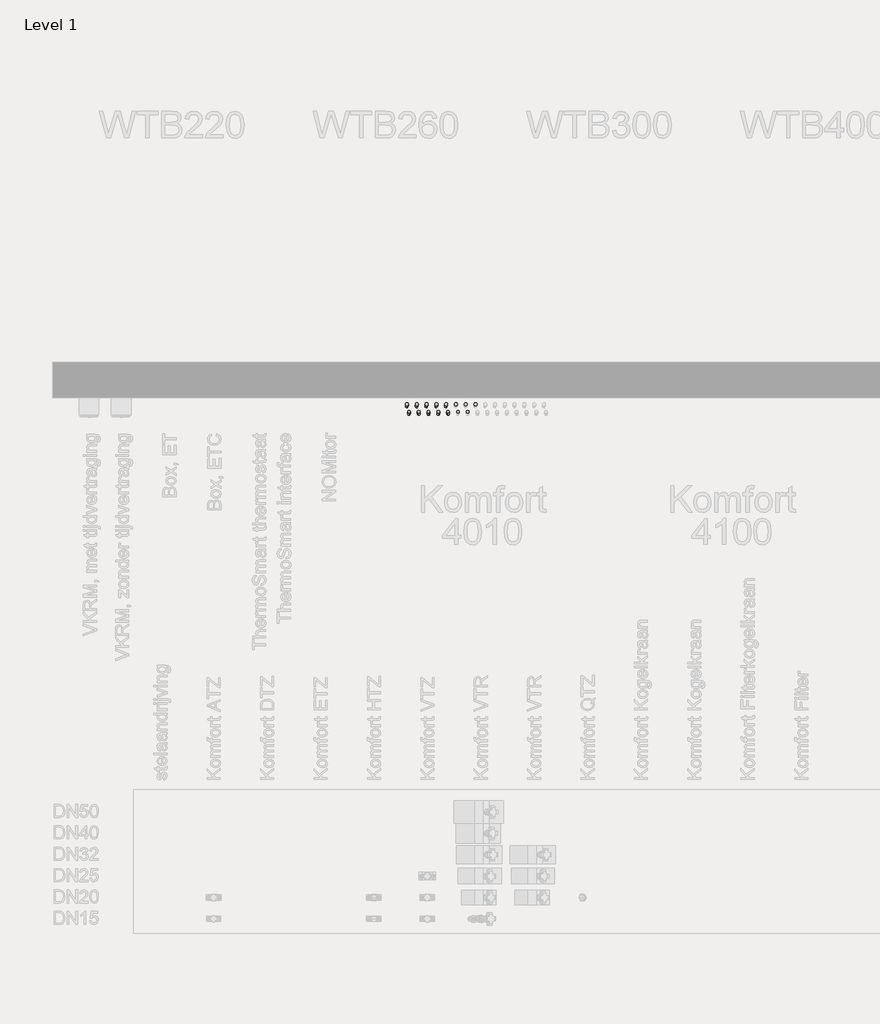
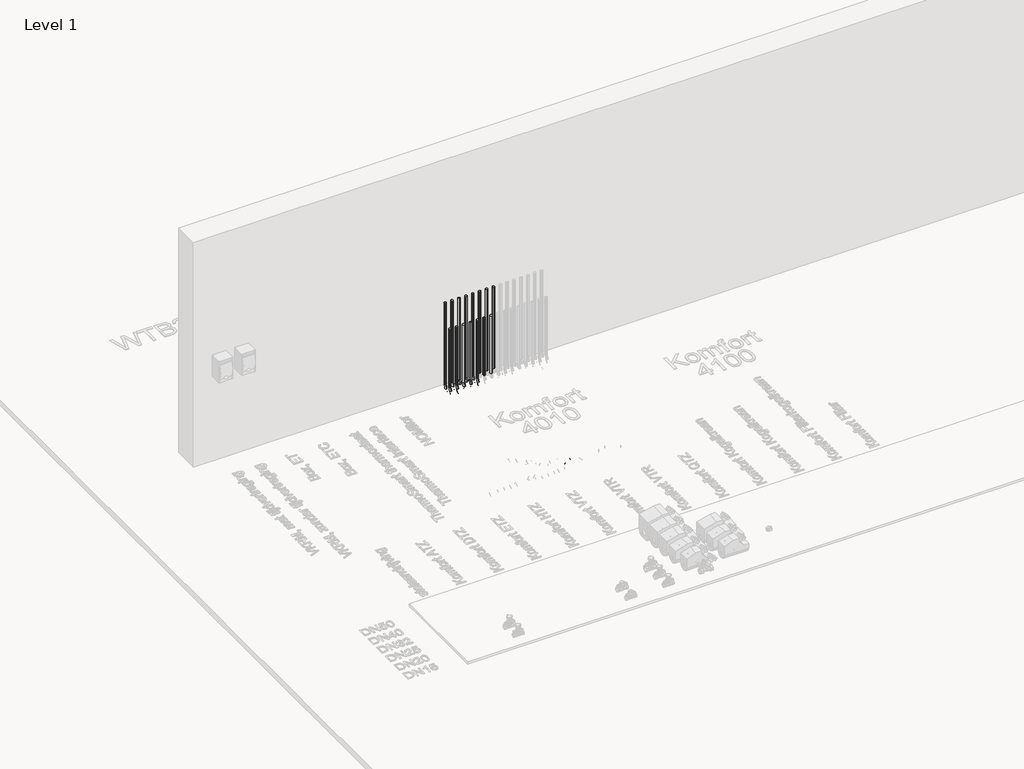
# One storey, part 4 of 34: 38 pipe segments, 20 pipe fittings.
"""IFC4 building model written with IfcOpenShell, lengths in millimetres."""

from ifc_helpers import new_model, si_unit, point, frame, frame_2d, origin, place, context, project, spatial, circle_curve, trimmed, segment, composite_curve, outline, extrude, transform, mapped, element, save
from components import comfort_pipe_plus_5c14e1aa, comfort_pipe_plus_d9ac523e, comfort_pipe_plus_c0b00d21, comfort_pipe_plus_f781b332, comfort_pipe_plus_8c37c2e0

model = new_model("IFC4")

# Units and contexts
model_context = context("Model", 3, world=origin())
ifc_project = project(units=[si_unit("LENGTHUNIT", "METRE", prefix="MILLI")], contexts=[model_context])

# Site, building, storey
site = spatial("IfcSite", under=ifc_project)
building = spatial("IfcBuilding", under=site)
storey = spatial("IfcBuildingStorey", under=building, Name="Level 1", Elevation=0.0)

# Pipe fittings
placement = place(None, origin())
comfort_pipe_plus_shape = comfort_pipe_plus_5c14e1aa(model_context)
element("IfcPipeFitting", 1, ObjectType="400_5-_Uponor_curved_Elbow : Comfort pipe PLUS", at=placement, inside=storey, context=model_context, shape_type="MappedRepresentation", body=[
    mapped(comfort_pipe_plus_shape, transform((-15004.4849522, 7437.4403177, -40.0), x_axis=(-0.14136609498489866, -0.9899573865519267, 0.0), y_axis=(0.9899573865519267, -0.14136609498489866, 0.0), z_axis=(0.0, 0.0, 1.0))),
])
element("IfcPipeFitting", 2, ObjectType="400_5-_Uponor_curved_Elbow : Comfort pipe PLUS", at=placement, inside=storey, context=model_context, shape_type="MappedRepresentation", body=[
    mapped(comfort_pipe_plus_shape, transform((-15059.4849522, 7437.4403177, -40.0), x_axis=(-0.1413660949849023, -0.9899573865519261, 0.0), y_axis=(0.9899573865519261, -0.1413660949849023, 0.0), z_axis=(0.0, 0.0, 1.0))),
])
element("IfcPipeFitting", 3, ObjectType="400_5-_Uponor_curved_Elbow : Comfort pipe PLUS", at=placement, inside=storey, context=model_context, shape_type="MappedRepresentation", body=[
    mapped(comfort_pipe_plus_shape, transform((-15114.4849522, 7437.4403177, -40.0), x_axis=(-0.14136609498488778, -0.9899573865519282, 0.0), y_axis=(0.9899573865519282, -0.14136609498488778, 0.0), z_axis=(0.0, 0.0, 1.0))),
])
element("IfcPipeFitting", 4, ObjectType="400_5-_Uponor_curved_Elbow : Comfort pipe PLUS", at=placement, inside=storey, context=model_context, shape_type="MappedRepresentation", body=[
    mapped(comfort_pipe_plus_shape, transform((-15169.4849522, 7437.4403177, -40.0), x_axis=(-0.14136609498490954, -0.989957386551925, 0.0), y_axis=(0.989957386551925, -0.14136609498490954, 0.0), z_axis=(0.0, 0.0, 1.0))),
])
element("IfcPipeFitting", 5, ObjectType="400_5-_Uponor_curved_Elbow : Comfort pipe PLUS", at=placement, inside=storey, context=model_context, shape_type="MappedRepresentation", body=[
    mapped(comfort_pipe_plus_shape, transform((-15224.4849522, 7437.4403177, -40.0), x_axis=(-0.14136609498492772, -0.9899573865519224, 0.0), y_axis=(0.9899573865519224, -0.14136609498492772, 0.0), z_axis=(0.0, 0.0, 1.0))),
])
element("IfcPipeFitting", 6, ObjectType="400_5-_Uponor_curved_Elbow : Comfort pipe PLUS", at=placement, inside=storey, context=model_context, shape_type="MappedRepresentation", body=[
    mapped(comfort_pipe_plus_shape, transform((-15279.4849522, 7437.4403177, -40.0), x_axis=(-0.14136609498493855, -0.989957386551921, 0.0), y_axis=(0.989957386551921, -0.14136609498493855, 0.0), z_axis=(0.0, 0.0, 1.0))),
])
comfort_pipe_plus_2_shape = comfort_pipe_plus_d9ac523e(model_context)
element("IfcPipeFitting", 7, ObjectType="400_5-_Uponor_curved_Elbow : Comfort pipe PLUS", at=placement, inside=storey, context=model_context, shape_type="MappedRepresentation", body=[
    mapped(comfort_pipe_plus_2_shape, transform((-15251.9849522, 7509.9863889, -40.0), x_axis=(0.0, 0.0, -1.0), y_axis=(0.0, -1.0, 0.0), z_axis=(-1.0, 0.0, 0.0))),
])
element("IfcPipeFitting", 8, ObjectType="400_5-_Uponor_curved_Elbow : Comfort pipe PLUS", at=placement, inside=storey, context=model_context, shape_type="MappedRepresentation", body=[
    mapped(comfort_pipe_plus_2_shape, transform((-15196.9849522, 7509.9863889, -40.0), x_axis=(0.0, 0.0, -1.0), y_axis=(0.0, -1.0, 0.0), z_axis=(-1.0, 0.0, 0.0))),
])
element("IfcPipeFitting", 9, ObjectType="400_5-_Uponor_curved_Elbow : Comfort pipe PLUS", at=placement, inside=storey, context=model_context, shape_type="MappedRepresentation", body=[
    mapped(comfort_pipe_plus_2_shape, transform((-15141.9849522, 7509.9863889, -40.0), x_axis=(0.0, 0.0, -1.0), y_axis=(0.0, -1.0, 0.0), z_axis=(-1.0, 0.0, 0.0))),
])
element("IfcPipeFitting", 10, ObjectType="400_5-_Uponor_curved_Elbow : Comfort pipe PLUS", at=placement, inside=storey, context=model_context, shape_type="MappedRepresentation", body=[
    mapped(comfort_pipe_plus_2_shape, transform((-15086.9849522, 7509.9863889, -40.0), x_axis=(0.0, 0.0, -1.0), y_axis=(0.0, -1.0, 0.0), z_axis=(-1.0, 0.0, 0.0))),
])
element("IfcPipeFitting", 11, ObjectType="400_5-_Uponor_curved_Elbow : Comfort pipe PLUS", at=placement, inside=storey, context=model_context, shape_type="MappedRepresentation", body=[
    mapped(comfort_pipe_plus_2_shape, transform((-15031.9849522, 7509.9863889, -40.0), x_axis=(0.0, 0.0, -1.0), y_axis=(0.0, -1.0, 0.0), z_axis=(-1.0, 0.0, 0.0))),
])
element("IfcPipeFitting", 12, ObjectType="400_5-_Uponor_curved_Elbow : Comfort pipe PLUS", at=placement, inside=storey, context=model_context, shape_type="MappedRepresentation", body=[
    mapped(comfort_pipe_plus_2_shape, transform((-15042.9849522, 7552.9863889, -40.0), x_axis=(0.0, 0.0, -1.0), y_axis=(-0.14136609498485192, -0.9899573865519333, 0.0), z_axis=(-0.9899573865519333, 0.14136609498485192, 0.0))),
])
element("IfcPipeFitting", 13, ObjectType="400_5-_Uponor_curved_Elbow : Comfort pipe PLUS", at=placement, inside=storey, context=model_context, shape_type="MappedRepresentation", body=[
    mapped(comfort_pipe_plus_2_shape, transform((-15097.9849522, 7552.9863889, -40.0), x_axis=(0.0, 0.0, -1.0), y_axis=(-0.14136609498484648, -0.9899573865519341, 0.0), z_axis=(-0.9899573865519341, 0.14136609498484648, 0.0))),
])
element("IfcPipeFitting", 14, ObjectType="400_5-_Uponor_curved_Elbow : Comfort pipe PLUS", at=placement, inside=storey, context=model_context, shape_type="MappedRepresentation", body=[
    mapped(comfort_pipe_plus_2_shape, transform((-15152.9849522, 7552.9863889, -40.0), x_axis=(0.0, 0.0, -1.0), y_axis=(-0.1413660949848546, -0.9899573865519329, 0.0), z_axis=(-0.9899573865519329, 0.1413660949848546, 0.0))),
])
element("IfcPipeFitting", 15, ObjectType="400_5-_Uponor_curved_Elbow : Comfort pipe PLUS", at=placement, inside=storey, context=model_context, shape_type="MappedRepresentation", body=[
    mapped(comfort_pipe_plus_2_shape, transform((-15207.9849522, 7552.9863889, -40.0), x_axis=(0.0, 0.0, -1.0), y_axis=(-0.1413660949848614, -0.989957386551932, 0.0), z_axis=(-0.989957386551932, 0.1413660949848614, 0.0))),
])
element("IfcPipeFitting", 16, ObjectType="400_5-_Uponor_curved_Elbow : Comfort pipe PLUS", at=placement, inside=storey, context=model_context, shape_type="MappedRepresentation", body=[
    mapped(comfort_pipe_plus_2_shape, transform((-15262.9849522, 7552.9863889, -40.0), x_axis=(0.0, 0.0, -1.0), y_axis=(-0.1413660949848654, -0.9899573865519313, 0.0), z_axis=(-0.9899573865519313, 0.1413660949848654, 0.0))),
])
comfort_pipe_plus_3_shape = comfort_pipe_plus_c0b00d21(model_context)
element("IfcPipeFitting", 17, ObjectType="400_5-_Uponor_curved_Elbow : Comfort pipe PLUS", at=placement, inside=storey, context=model_context, shape_type="MappedRepresentation", body=[
    mapped(comfort_pipe_plus_3_shape, transform((-14955.7349522, 6355.7502784, -40.0), x_axis=(0.0, 1.0, 0.0), y_axis=(-1.0, 0.0, 0.0), z_axis=(0.0, 0.0, 1.0))),
])
element("IfcPipeFitting", 18, ObjectType="400_5-_Uponor_curved_Elbow : Comfort pipe PLUS", at=placement, inside=storey, context=model_context, shape_type="MappedRepresentation", body=[
    mapped(comfort_pipe_plus_3_shape, transform((-14921.9849522, 6407.4633273, -40.0), x_axis=(0.0, -1.0, 0.0), y_axis=(1.0, 0.0, 0.0), z_axis=(0.0, 0.0, 1.0))),
])
comfort_pipe_plus_4_shape = comfort_pipe_plus_f781b332(model_context)
element("IfcPipeFitting", 19, ObjectType="400_5-_Uponor_curved_Elbow : Comfort pipe PLUS", at=placement, inside=storey, context=model_context, shape_type="MappedRepresentation", body=[
    mapped(comfort_pipe_plus_4_shape, transform((-14949.4849522, 6410.5234526, -40.0), x_axis=(0.0, -1.0, 0.0), y_axis=(1.0, 0.0, 0.0), z_axis=(0.0, 0.0, 1.0))),
])
comfort_pipe_plus_5_shape = comfort_pipe_plus_8c37c2e0(model_context)
element("IfcPipeFitting", 20, ObjectType="400_5-_Uponor_curved_Elbow : Comfort pipe PLUS", at=placement, inside=storey, context=model_context, shape_type="MappedRepresentation", body=[
    mapped(comfort_pipe_plus_5_shape, transform((-14976.9849522, 6415.1496116, -40.0), x_axis=(0.0, -1.0, 0.0), y_axis=(1.0, 0.0, 0.0), z_axis=(0.0, 0.0, 1.0))),
])

# Pipe segments
element("IfcPipeSegment", 21, ObjectType="Uponor Comfort Pipe PLUS / VVL", at=placement, inside=storey, context=model_context, shape_type="SweptSolid", body=[
    extrude(outline(composite_curve([segment(trimmed(circle_curve(frame_2d((0.0, -8.5)), 8.5), [point((-8.5, -8.5))], [point((0.0, 0.0))], False, "CARTESIAN"), True, "CONTINUOUS"), segment(trimmed(circle_curve(frame_2d((0.0, -8.5)), 8.5), [point((0.0, 0.0))], [point((8.5, -8.5))], False, "CARTESIAN"), True, "CONTINUOUS"), segment(trimmed(circle_curve(frame_2d((0.0, -8.5)), 8.5), [point((8.5, -8.5))], [point((0.0, -17.0))], False, "CARTESIAN"), True, "CONTINUOUS"), segment(trimmed(circle_curve(frame_2d((0.0, -8.5)), 8.5), [point((0.0, -17.0))], [point((-8.5, -8.5))], False, "CARTESIAN"), True, "CONTINUOUS")], self_intersect=False)), frame((-15278.7819693, 7442.3631611, -48.5), z_axis=(0.14136609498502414, 0.9899573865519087, 0.0), x_axis=(0.9899573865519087, -0.14136609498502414, 0.0)), (0.0, 0.0, 1.0), 41.7454441),
])
element("IfcPipeSegment", 22, ObjectType="Uponor Comfort Pipe PLUS / VVL", at=placement, inside=storey, context=model_context, shape_type="SweptSolid", body=[
    extrude(outline(composite_curve([segment(trimmed(circle_curve(frame_2d((-15262.9849522, 7552.9863889)), 8.5), [point((-15271.4849522, 7552.9863889))], [point((-15262.9849522, 7561.4863889))], False, "CARTESIAN"), True, "CONTINUOUS"), segment(trimmed(circle_curve(frame_2d((-15262.9849522, 7552.9863889)), 8.5), [point((-15262.9849522, 7561.4863889))], [point((-15254.4849522, 7552.9863889))], False, "CARTESIAN"), True, "CONTINUOUS"), segment(trimmed(circle_curve(frame_2d((-15262.9849522, 7552.9863889)), 8.5), [point((-15254.4849522, 7552.9863889))], [point((-15262.9849522, 7544.4863889))], False, "CARTESIAN"), True, "CONTINUOUS"), segment(trimmed(circle_curve(frame_2d((-15262.9849522, 7552.9863889)), 8.5), [point((-15262.9849522, 7544.4863889))], [point((-15271.4849522, 7552.9863889))], False, "CARTESIAN"), True, "CONTINUOUS")], self_intersect=False)), frame((0.0, 0.0, 30.0), z_axis=(0.0, 0.0, 1.0), x_axis=(1.0, 0.0, 0.0)), (0.0, 0.0, 1.0), 687.5776398),
])
element("IfcPipeSegment", 23, ObjectType="Uponor Comfort Pipe PLUS / VVL", at=placement, inside=storey, context=model_context, shape_type="SweptSolid", body=[
    extrude(outline(composite_curve([segment(trimmed(circle_curve(frame_2d((-40.0, -15251.9849522)), 8.5), [point((-40.0, -15260.4849522))], [point((-48.5, -15251.9849522))], False, "CARTESIAN"), True, "CONTINUOUS"), segment(trimmed(circle_curve(frame_2d((-40.0, -15251.9849522)), 8.5), [point((-48.5, -15251.9849522))], [point((-40.0, -15243.4849522))], False, "CARTESIAN"), True, "CONTINUOUS"), segment(trimmed(circle_curve(frame_2d((-40.0, -15251.9849522)), 8.5), [point((-40.0, -15243.4849522))], [point((-31.5, -15251.9849522))], False, "CARTESIAN"), True, "CONTINUOUS"), segment(trimmed(circle_curve(frame_2d((-40.0, -15251.9849522)), 8.5), [point((-31.5, -15251.9849522))], [point((-40.0, -15260.4849522))], False, "CARTESIAN"), True, "CONTINUOUS")], self_intersect=False)), frame((0.0, 7193.8942465, 0.0), z_axis=(0.0, 1.0, 0.0), x_axis=(0.0, 0.0, 1.0)), (0.0, 0.0, 1.0), 246.0921424),
])
element("IfcPipeSegment", 24, ObjectType="Uponor Comfort Pipe PLUS / VVL", at=placement, inside=storey, context=model_context, shape_type="SweptSolid", body=[
    extrude(outline(composite_curve([segment(trimmed(circle_curve(frame_2d((-15251.9849522, 7509.9863889)), 8.5), [point((-15260.4849522, 7509.9863889))], [point((-15251.9849522, 7518.4863889))], False, "CARTESIAN"), True, "CONTINUOUS"), segment(trimmed(circle_curve(frame_2d((-15251.9849522, 7509.9863889)), 8.5), [point((-15251.9849522, 7518.4863889))], [point((-15243.4849522, 7509.9863889))], False, "CARTESIAN"), True, "CONTINUOUS"), segment(trimmed(circle_curve(frame_2d((-15251.9849522, 7509.9863889)), 8.5), [point((-15243.4849522, 7509.9863889))], [point((-15251.9849522, 7501.4863889))], False, "CARTESIAN"), True, "CONTINUOUS"), segment(trimmed(circle_curve(frame_2d((-15251.9849522, 7509.9863889)), 8.5), [point((-15251.9849522, 7501.4863889))], [point((-15260.4849522, 7509.9863889))], False, "CARTESIAN"), True, "CONTINUOUS")], self_intersect=False)), frame((0.0, 0.0, 30.0), z_axis=(0.0, 0.0, 1.0), x_axis=(1.0, 0.0, 0.0)), (0.0, 0.0, 1.0), 487.6490683),
])
element("IfcPipeSegment", 25, ObjectType="Uponor Comfort Pipe PLUS / VVL", at=placement, inside=storey, context=model_context, shape_type="SweptSolid", body=[
    extrude(outline(composite_curve([segment(trimmed(circle_curve(frame_2d((0.0, -8.5)), 8.5), [point((-8.5, -8.5))], [point((0.0, 0.0))], False, "CARTESIAN"), True, "CONTINUOUS"), segment(trimmed(circle_curve(frame_2d((0.0, -8.5)), 8.5), [point((0.0, 0.0))], [point((8.5, -8.5))], False, "CARTESIAN"), True, "CONTINUOUS"), segment(trimmed(circle_curve(frame_2d((0.0, -8.5)), 8.5), [point((8.5, -8.5))], [point((0.0, -17.0))], False, "CARTESIAN"), True, "CONTINUOUS"), segment(trimmed(circle_curve(frame_2d((0.0, -8.5)), 8.5), [point((0.0, -17.0))], [point((-8.5, -8.5))], False, "CARTESIAN"), True, "CONTINUOUS")], self_intersect=False)), frame((-15223.7819693, 7442.3631611, -48.5), z_axis=(0.1413660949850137, 0.9899573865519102, 0.0), x_axis=(0.9899573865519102, -0.1413660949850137, 0.0)), (0.0, 0.0, 1.0), 41.7454441),
])
element("IfcPipeSegment", 26, ObjectType="Uponor Comfort Pipe PLUS / VVL", at=placement, inside=storey, context=model_context, shape_type="SweptSolid", body=[
    extrude(outline(composite_curve([segment(trimmed(circle_curve(frame_2d((-15207.9849522, 7552.9863889)), 8.5), [point((-15216.4849522, 7552.9863889))], [point((-15207.9849522, 7561.4863889))], False, "CARTESIAN"), True, "CONTINUOUS"), segment(trimmed(circle_curve(frame_2d((-15207.9849522, 7552.9863889)), 8.5), [point((-15207.9849522, 7561.4863889))], [point((-15199.4849522, 7552.9863889))], False, "CARTESIAN"), True, "CONTINUOUS"), segment(trimmed(circle_curve(frame_2d((-15207.9849522, 7552.9863889)), 8.5), [point((-15199.4849522, 7552.9863889))], [point((-15207.9849522, 7544.4863889))], False, "CARTESIAN"), True, "CONTINUOUS"), segment(trimmed(circle_curve(frame_2d((-15207.9849522, 7552.9863889)), 8.5), [point((-15207.9849522, 7544.4863889))], [point((-15216.4849522, 7552.9863889))], False, "CARTESIAN"), True, "CONTINUOUS")], self_intersect=False)), frame((0.0, 0.0, 30.0), z_axis=(0.0, 0.0, 1.0), x_axis=(1.0, 0.0, 0.0)), (0.0, 0.0, 1.0), 687.5776398),
])
element("IfcPipeSegment", 27, ObjectType="Uponor Comfort Pipe PLUS / VVL", at=placement, inside=storey, context=model_context, shape_type="SweptSolid", body=[
    extrude(outline(composite_curve([segment(trimmed(circle_curve(frame_2d((-40.0, -15196.9849522)), 8.5), [point((-40.0, -15205.4849522))], [point((-48.5, -15196.9849522))], False, "CARTESIAN"), True, "CONTINUOUS"), segment(trimmed(circle_curve(frame_2d((-40.0, -15196.9849522)), 8.5), [point((-48.5, -15196.9849522))], [point((-40.0, -15188.4849522))], False, "CARTESIAN"), True, "CONTINUOUS"), segment(trimmed(circle_curve(frame_2d((-40.0, -15196.9849522)), 8.5), [point((-40.0, -15188.4849522))], [point((-31.5, -15196.9849522))], False, "CARTESIAN"), True, "CONTINUOUS"), segment(trimmed(circle_curve(frame_2d((-40.0, -15196.9849522)), 8.5), [point((-31.5, -15196.9849522))], [point((-40.0, -15205.4849522))], False, "CARTESIAN"), True, "CONTINUOUS")], self_intersect=False)), frame((0.0, 7193.8942465, 0.0), z_axis=(0.0, 1.0, 0.0), x_axis=(0.0, 0.0, 1.0)), (0.0, 0.0, 1.0), 246.0921424),
])
element("IfcPipeSegment", 28, ObjectType="Uponor Comfort Pipe PLUS / VVL", at=placement, inside=storey, context=model_context, shape_type="SweptSolid", body=[
    extrude(outline(composite_curve([segment(trimmed(circle_curve(frame_2d((-15196.9849522, 7509.9863889)), 8.5), [point((-15205.4849522, 7509.9863889))], [point((-15196.9849522, 7518.4863889))], False, "CARTESIAN"), True, "CONTINUOUS"), segment(trimmed(circle_curve(frame_2d((-15196.9849522, 7509.9863889)), 8.5), [point((-15196.9849522, 7518.4863889))], [point((-15188.4849522, 7509.9863889))], False, "CARTESIAN"), True, "CONTINUOUS"), segment(trimmed(circle_curve(frame_2d((-15196.9849522, 7509.9863889)), 8.5), [point((-15188.4849522, 7509.9863889))], [point((-15196.9849522, 7501.4863889))], False, "CARTESIAN"), True, "CONTINUOUS"), segment(trimmed(circle_curve(frame_2d((-15196.9849522, 7509.9863889)), 8.5), [point((-15196.9849522, 7501.4863889))], [point((-15205.4849522, 7509.9863889))], False, "CARTESIAN"), True, "CONTINUOUS")], self_intersect=False)), frame((0.0, 0.0, 30.0), z_axis=(0.0, 0.0, 1.0), x_axis=(1.0, 0.0, 0.0)), (0.0, 0.0, 1.0), 487.6490683),
])
element("IfcPipeSegment", 29, ObjectType="Uponor Comfort Pipe PLUS / VVL", at=placement, inside=storey, context=model_context, shape_type="SweptSolid", body=[
    extrude(outline(composite_curve([segment(trimmed(circle_curve(frame_2d((0.0, -8.5)), 8.5), [point((-8.5, -8.5))], [point((0.0, 0.0))], False, "CARTESIAN"), True, "CONTINUOUS"), segment(trimmed(circle_curve(frame_2d((0.0, -8.5)), 8.5), [point((0.0, 0.0))], [point((8.5, -8.5))], False, "CARTESIAN"), True, "CONTINUOUS"), segment(trimmed(circle_curve(frame_2d((0.0, -8.5)), 8.5), [point((8.5, -8.5))], [point((0.0, -17.0))], False, "CARTESIAN"), True, "CONTINUOUS"), segment(trimmed(circle_curve(frame_2d((0.0, -8.5)), 8.5), [point((0.0, -17.0))], [point((-8.5, -8.5))], False, "CARTESIAN"), True, "CONTINUOUS")], self_intersect=False)), frame((-15168.7819693, 7442.3631611, -48.5), z_axis=(0.1413660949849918, 0.9899573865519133, 0.0), x_axis=(0.9899573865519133, -0.1413660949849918, 0.0)), (0.0, 0.0, 1.0), 41.7454441),
])
element("IfcPipeSegment", 30, ObjectType="Uponor Comfort Pipe PLUS / VVL", at=placement, inside=storey, context=model_context, shape_type="SweptSolid", body=[
    extrude(outline(composite_curve([segment(trimmed(circle_curve(frame_2d((-15152.9849522, 7552.9863889)), 8.5), [point((-15161.4849522, 7552.9863889))], [point((-15152.9849522, 7561.4863889))], False, "CARTESIAN"), True, "CONTINUOUS"), segment(trimmed(circle_curve(frame_2d((-15152.9849522, 7552.9863889)), 8.5), [point((-15152.9849522, 7561.4863889))], [point((-15144.4849522, 7552.9863889))], False, "CARTESIAN"), True, "CONTINUOUS"), segment(trimmed(circle_curve(frame_2d((-15152.9849522, 7552.9863889)), 8.5), [point((-15144.4849522, 7552.9863889))], [point((-15152.9849522, 7544.4863889))], False, "CARTESIAN"), True, "CONTINUOUS"), segment(trimmed(circle_curve(frame_2d((-15152.9849522, 7552.9863889)), 8.5), [point((-15152.9849522, 7544.4863889))], [point((-15161.4849522, 7552.9863889))], False, "CARTESIAN"), True, "CONTINUOUS")], self_intersect=False)), frame((0.0, 0.0, 30.0), z_axis=(0.0, 0.0, 1.0), x_axis=(1.0, 0.0, 0.0)), (0.0, 0.0, 1.0), 687.5776398),
])
element("IfcPipeSegment", 31, ObjectType="Uponor Comfort Pipe PLUS / VVL", at=placement, inside=storey, context=model_context, shape_type="SweptSolid", body=[
    extrude(outline(composite_curve([segment(trimmed(circle_curve(frame_2d((-40.0, -15141.9849522)), 8.5), [point((-40.0, -15150.4849522))], [point((-48.5, -15141.9849522))], False, "CARTESIAN"), True, "CONTINUOUS"), segment(trimmed(circle_curve(frame_2d((-40.0, -15141.9849522)), 8.5), [point((-48.5, -15141.9849522))], [point((-40.0, -15133.4849522))], False, "CARTESIAN"), True, "CONTINUOUS"), segment(trimmed(circle_curve(frame_2d((-40.0, -15141.9849522)), 8.5), [point((-40.0, -15133.4849522))], [point((-31.5, -15141.9849522))], False, "CARTESIAN"), True, "CONTINUOUS"), segment(trimmed(circle_curve(frame_2d((-40.0, -15141.9849522)), 8.5), [point((-31.5, -15141.9849522))], [point((-40.0, -15150.4849522))], False, "CARTESIAN"), True, "CONTINUOUS")], self_intersect=False)), frame((0.0, 7193.8942465, 0.0), z_axis=(0.0, 1.0, 0.0), x_axis=(0.0, 0.0, 1.0)), (0.0, 0.0, 1.0), 246.0921424),
])
element("IfcPipeSegment", 32, ObjectType="Uponor Comfort Pipe PLUS / VVL", at=placement, inside=storey, context=model_context, shape_type="SweptSolid", body=[
    extrude(outline(composite_curve([segment(trimmed(circle_curve(frame_2d((-15141.9849522, 7509.9863889)), 8.5), [point((-15150.4849522, 7509.9863889))], [point((-15141.9849522, 7518.4863889))], False, "CARTESIAN"), True, "CONTINUOUS"), segment(trimmed(circle_curve(frame_2d((-15141.9849522, 7509.9863889)), 8.5), [point((-15141.9849522, 7518.4863889))], [point((-15133.4849522, 7509.9863889))], False, "CARTESIAN"), True, "CONTINUOUS"), segment(trimmed(circle_curve(frame_2d((-15141.9849522, 7509.9863889)), 8.5), [point((-15133.4849522, 7509.9863889))], [point((-15141.9849522, 7501.4863889))], False, "CARTESIAN"), True, "CONTINUOUS"), segment(trimmed(circle_curve(frame_2d((-15141.9849522, 7509.9863889)), 8.5), [point((-15141.9849522, 7501.4863889))], [point((-15150.4849522, 7509.9863889))], False, "CARTESIAN"), True, "CONTINUOUS")], self_intersect=False)), frame((0.0, 0.0, 30.0), z_axis=(0.0, 0.0, 1.0), x_axis=(1.0, 0.0, 0.0)), (0.0, 0.0, 1.0), 487.6490683),
])
element("IfcPipeSegment", 33, ObjectType="Uponor Comfort Pipe PLUS / VVL", at=placement, inside=storey, context=model_context, shape_type="SweptSolid", body=[
    extrude(outline(composite_curve([segment(trimmed(circle_curve(frame_2d((0.0, -8.5)), 8.5), [point((-8.5, -8.5))], [point((0.0, 0.0))], False, "CARTESIAN"), True, "CONTINUOUS"), segment(trimmed(circle_curve(frame_2d((0.0, -8.5)), 8.5), [point((0.0, 0.0))], [point((8.5, -8.5))], False, "CARTESIAN"), True, "CONTINUOUS"), segment(trimmed(circle_curve(frame_2d((0.0, -8.5)), 8.5), [point((8.5, -8.5))], [point((0.0, -17.0))], False, "CARTESIAN"), True, "CONTINUOUS"), segment(trimmed(circle_curve(frame_2d((0.0, -8.5)), 8.5), [point((0.0, -17.0))], [point((-8.5, -8.5))], False, "CARTESIAN"), True, "CONTINUOUS")], self_intersect=False)), frame((-15113.7819693, 7442.3631611, -48.5), z_axis=(0.14136609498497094, 0.9899573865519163, 0.0), x_axis=(0.9899573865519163, -0.14136609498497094, 0.0)), (0.0, 0.0, 1.0), 41.7454441),
])
element("IfcPipeSegment", 34, ObjectType="Uponor Comfort Pipe PLUS / VVL", at=placement, inside=storey, context=model_context, shape_type="SweptSolid", body=[
    extrude(outline(composite_curve([segment(trimmed(circle_curve(frame_2d((-15097.9849522, 7552.9863889)), 8.5), [point((-15106.4849522, 7552.9863889))], [point((-15097.9849522, 7561.4863889))], False, "CARTESIAN"), True, "CONTINUOUS"), segment(trimmed(circle_curve(frame_2d((-15097.9849522, 7552.9863889)), 8.5), [point((-15097.9849522, 7561.4863889))], [point((-15089.4849522, 7552.9863889))], False, "CARTESIAN"), True, "CONTINUOUS"), segment(trimmed(circle_curve(frame_2d((-15097.9849522, 7552.9863889)), 8.5), [point((-15089.4849522, 7552.9863889))], [point((-15097.9849522, 7544.4863889))], False, "CARTESIAN"), True, "CONTINUOUS"), segment(trimmed(circle_curve(frame_2d((-15097.9849522, 7552.9863889)), 8.5), [point((-15097.9849522, 7544.4863889))], [point((-15106.4849522, 7552.9863889))], False, "CARTESIAN"), True, "CONTINUOUS")], self_intersect=False)), frame((0.0, 0.0, 30.0), z_axis=(0.0, 0.0, 1.0), x_axis=(1.0, 0.0, 0.0)), (0.0, 0.0, 1.0), 687.5776398),
])
element("IfcPipeSegment", 35, ObjectType="Uponor Comfort Pipe PLUS / VVL", at=placement, inside=storey, context=model_context, shape_type="SweptSolid", body=[
    extrude(outline(composite_curve([segment(trimmed(circle_curve(frame_2d((-40.0, -15086.9849522)), 8.5), [point((-40.0, -15095.4849522))], [point((-48.5, -15086.9849522))], False, "CARTESIAN"), True, "CONTINUOUS"), segment(trimmed(circle_curve(frame_2d((-40.0, -15086.9849522)), 8.5), [point((-48.5, -15086.9849522))], [point((-40.0, -15078.4849522))], False, "CARTESIAN"), True, "CONTINUOUS"), segment(trimmed(circle_curve(frame_2d((-40.0, -15086.9849522)), 8.5), [point((-40.0, -15078.4849522))], [point((-31.5, -15086.9849522))], False, "CARTESIAN"), True, "CONTINUOUS"), segment(trimmed(circle_curve(frame_2d((-40.0, -15086.9849522)), 8.5), [point((-31.5, -15086.9849522))], [point((-40.0, -15095.4849522))], False, "CARTESIAN"), True, "CONTINUOUS")], self_intersect=False)), frame((0.0, 7193.8942465, 0.0), z_axis=(0.0, 1.0, 0.0), x_axis=(0.0, 0.0, 1.0)), (0.0, 0.0, 1.0), 246.0921424),
])
element("IfcPipeSegment", 36, ObjectType="Uponor Comfort Pipe PLUS / VVL", at=placement, inside=storey, context=model_context, shape_type="SweptSolid", body=[
    extrude(outline(composite_curve([segment(trimmed(circle_curve(frame_2d((-15086.9849522, 7509.9863889)), 8.5), [point((-15095.4849522, 7509.9863889))], [point((-15086.9849522, 7518.4863889))], False, "CARTESIAN"), True, "CONTINUOUS"), segment(trimmed(circle_curve(frame_2d((-15086.9849522, 7509.9863889)), 8.5), [point((-15086.9849522, 7518.4863889))], [point((-15078.4849522, 7509.9863889))], False, "CARTESIAN"), True, "CONTINUOUS"), segment(trimmed(circle_curve(frame_2d((-15086.9849522, 7509.9863889)), 8.5), [point((-15078.4849522, 7509.9863889))], [point((-15086.9849522, 7501.4863889))], False, "CARTESIAN"), True, "CONTINUOUS"), segment(trimmed(circle_curve(frame_2d((-15086.9849522, 7509.9863889)), 8.5), [point((-15086.9849522, 7501.4863889))], [point((-15095.4849522, 7509.9863889))], False, "CARTESIAN"), True, "CONTINUOUS")], self_intersect=False)), frame((0.0, 0.0, 30.0), z_axis=(0.0, 0.0, 1.0), x_axis=(1.0, 0.0, 0.0)), (0.0, 0.0, 1.0), 487.6490683),
])
element("IfcPipeSegment", 37, ObjectType="Uponor Comfort Pipe PLUS / VVL", at=placement, inside=storey, context=model_context, shape_type="SweptSolid", body=[
    extrude(outline(composite_curve([segment(trimmed(circle_curve(frame_2d((0.0, -8.5)), 8.5), [point((-8.5, -8.5))], [point((0.0, 0.0))], False, "CARTESIAN"), True, "CONTINUOUS"), segment(trimmed(circle_curve(frame_2d((0.0, -8.5)), 8.5), [point((0.0, 0.0))], [point((8.5, -8.5))], False, "CARTESIAN"), True, "CONTINUOUS"), segment(trimmed(circle_curve(frame_2d((0.0, -8.5)), 8.5), [point((8.5, -8.5))], [point((0.0, -17.0))], False, "CARTESIAN"), True, "CONTINUOUS"), segment(trimmed(circle_curve(frame_2d((0.0, -8.5)), 8.5), [point((0.0, -17.0))], [point((-8.5, -8.5))], False, "CARTESIAN"), True, "CONTINUOUS")], self_intersect=False)), frame((-15058.7819693, 7442.3631611, -48.5), z_axis=(0.14136609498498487, 0.9899573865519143, 0.0), x_axis=(0.9899573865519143, -0.14136609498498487, 0.0)), (0.0, 0.0, 1.0), 41.7454441),
])
element("IfcPipeSegment", 38, ObjectType="Uponor Comfort Pipe PLUS / VVL", at=placement, inside=storey, context=model_context, shape_type="SweptSolid", body=[
    extrude(outline(composite_curve([segment(trimmed(circle_curve(frame_2d((-15042.9849522, 7552.9863889)), 8.5), [point((-15051.4849522, 7552.9863889))], [point((-15042.9849522, 7561.4863889))], False, "CARTESIAN"), True, "CONTINUOUS"), segment(trimmed(circle_curve(frame_2d((-15042.9849522, 7552.9863889)), 8.5), [point((-15042.9849522, 7561.4863889))], [point((-15034.4849522, 7552.9863889))], False, "CARTESIAN"), True, "CONTINUOUS"), segment(trimmed(circle_curve(frame_2d((-15042.9849522, 7552.9863889)), 8.5), [point((-15034.4849522, 7552.9863889))], [point((-15042.9849522, 7544.4863889))], False, "CARTESIAN"), True, "CONTINUOUS"), segment(trimmed(circle_curve(frame_2d((-15042.9849522, 7552.9863889)), 8.5), [point((-15042.9849522, 7544.4863889))], [point((-15051.4849522, 7552.9863889))], False, "CARTESIAN"), True, "CONTINUOUS")], self_intersect=False)), frame((0.0, 0.0, 30.0), z_axis=(0.0, 0.0, 1.0), x_axis=(1.0, 0.0, 0.0)), (0.0, 0.0, 1.0), 687.5776398),
])
element("IfcPipeSegment", 39, ObjectType="Uponor Comfort Pipe PLUS / VVL", at=placement, inside=storey, context=model_context, shape_type="SweptSolid", body=[
    extrude(outline(composite_curve([segment(trimmed(circle_curve(frame_2d((-40.0, -15031.9849522)), 8.5), [point((-40.0, -15040.4849522))], [point((-48.5, -15031.9849522))], False, "CARTESIAN"), True, "CONTINUOUS"), segment(trimmed(circle_curve(frame_2d((-40.0, -15031.9849522)), 8.5), [point((-48.5, -15031.9849522))], [point((-40.0, -15023.4849522))], False, "CARTESIAN"), True, "CONTINUOUS"), segment(trimmed(circle_curve(frame_2d((-40.0, -15031.9849522)), 8.5), [point((-40.0, -15023.4849522))], [point((-31.5, -15031.9849522))], False, "CARTESIAN"), True, "CONTINUOUS"), segment(trimmed(circle_curve(frame_2d((-40.0, -15031.9849522)), 8.5), [point((-31.5, -15031.9849522))], [point((-40.0, -15040.4849522))], False, "CARTESIAN"), True, "CONTINUOUS")], self_intersect=False)), frame((0.0, 7193.8942465, 0.0), z_axis=(0.0, 1.0, 0.0), x_axis=(0.0, 0.0, 1.0)), (0.0, 0.0, 1.0), 246.0921424),
])
element("IfcPipeSegment", 40, ObjectType="Uponor Comfort Pipe PLUS / VVL", at=placement, inside=storey, context=model_context, shape_type="SweptSolid", body=[
    extrude(outline(composite_curve([segment(trimmed(circle_curve(frame_2d((-15031.9849522, 7509.9863889)), 8.5), [point((-15040.4849522, 7509.9863889))], [point((-15031.9849522, 7518.4863889))], False, "CARTESIAN"), True, "CONTINUOUS"), segment(trimmed(circle_curve(frame_2d((-15031.9849522, 7509.9863889)), 8.5), [point((-15031.9849522, 7518.4863889))], [point((-15023.4849522, 7509.9863889))], False, "CARTESIAN"), True, "CONTINUOUS"), segment(trimmed(circle_curve(frame_2d((-15031.9849522, 7509.9863889)), 8.5), [point((-15023.4849522, 7509.9863889))], [point((-15031.9849522, 7501.4863889))], False, "CARTESIAN"), True, "CONTINUOUS"), segment(trimmed(circle_curve(frame_2d((-15031.9849522, 7509.9863889)), 8.5), [point((-15031.9849522, 7501.4863889))], [point((-15040.4849522, 7509.9863889))], False, "CARTESIAN"), True, "CONTINUOUS")], self_intersect=False)), frame((0.0, 0.0, 30.0), z_axis=(0.0, 0.0, 1.0), x_axis=(1.0, 0.0, 0.0)), (0.0, 0.0, 1.0), 487.6490683),
])
element("IfcPipeSegment", 41, ObjectType="Uponor Comfort Pipe PLUS / VVL", at=placement, inside=storey, context=model_context, shape_type="SweptSolid", body=[
    extrude(outline(composite_curve([segment(trimmed(circle_curve(frame_2d((0.0, -8.5)), 8.5), [point((-8.5, -8.5))], [point((0.0, 0.0))], False, "CARTESIAN"), True, "CONTINUOUS"), segment(trimmed(circle_curve(frame_2d((0.0, -8.5)), 8.5), [point((0.0, 0.0))], [point((8.5, -8.5))], False, "CARTESIAN"), True, "CONTINUOUS"), segment(trimmed(circle_curve(frame_2d((0.0, -8.5)), 8.5), [point((8.5, -8.5))], [point((0.0, -17.0))], False, "CARTESIAN"), True, "CONTINUOUS"), segment(trimmed(circle_curve(frame_2d((0.0, -8.5)), 8.5), [point((0.0, -17.0))], [point((-8.5, -8.5))], False, "CARTESIAN"), True, "CONTINUOUS")], self_intersect=False)), frame((-15003.7819693, 7442.3631611, -48.5), z_axis=(0.14136609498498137, 0.9899573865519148, 0.0), x_axis=(0.9899573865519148, -0.14136609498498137, 0.0)), (0.0, 0.0, 1.0), 41.7454441),
])
element("IfcPipeSegment", 42, ObjectType="Uponor Comfort Pipe PLUS / VVL", at=placement, inside=storey, context=model_context, shape_type="SweptSolid", body=[
    extrude(outline(composite_curve([segment(trimmed(circle_curve(frame_2d((-14987.9849522, 7552.9863889)), 8.5), [point((-14996.4849522, 7552.9863889))], [point((-14987.9849522, 7561.4863889))], False, "CARTESIAN"), True, "CONTINUOUS"), segment(trimmed(circle_curve(frame_2d((-14987.9849522, 7552.9863889)), 8.5), [point((-14987.9849522, 7561.4863889))], [point((-14979.4849522, 7552.9863889))], False, "CARTESIAN"), True, "CONTINUOUS"), segment(trimmed(circle_curve(frame_2d((-14987.9849522, 7552.9863889)), 8.5), [point((-14979.4849522, 7552.9863889))], [point((-14987.9849522, 7544.4863889))], False, "CARTESIAN"), True, "CONTINUOUS"), segment(trimmed(circle_curve(frame_2d((-14987.9849522, 7552.9863889)), 8.5), [point((-14987.9849522, 7544.4863889))], [point((-14996.4849522, 7552.9863889))], False, "CARTESIAN"), True, "CONTINUOUS")], self_intersect=False)), frame((0.0, 0.0, 30.0), z_axis=(0.0, 0.0, 1.0), x_axis=(1.0, 0.0, 0.0)), (0.0, 0.0, 1.0), 687.5776398),
])
element("IfcPipeSegment", 43, ObjectType="Uponor Comfort Pipe PLUS / VVL", at=placement, inside=storey, context=model_context, shape_type="SweptSolid", body=[
    extrude(outline(composite_curve([segment(trimmed(circle_curve(frame_2d((-40.0, -14976.9849522)), 8.5), [point((-40.0, -14985.4849522))], [point((-48.5, -14976.9849522))], False, "CARTESIAN"), True, "CONTINUOUS"), segment(trimmed(circle_curve(frame_2d((-40.0, -14976.9849522)), 8.5), [point((-48.5, -14976.9849522))], [point((-40.0, -14968.4849522))], False, "CARTESIAN"), True, "CONTINUOUS"), segment(trimmed(circle_curve(frame_2d((-40.0, -14976.9849522)), 8.5), [point((-40.0, -14968.4849522))], [point((-31.5, -14976.9849522))], False, "CARTESIAN"), True, "CONTINUOUS"), segment(trimmed(circle_curve(frame_2d((-40.0, -14976.9849522)), 8.5), [point((-31.5, -14976.9849522))], [point((-40.0, -14985.4849522))], False, "CARTESIAN"), True, "CONTINUOUS")], self_intersect=False)), frame((0.0, 7193.8942465, 0.0), z_axis=(0.0, 1.0, 0.0), x_axis=(0.0, 0.0, 1.0)), (0.0, 0.0, 1.0), 246.0921424),
])
element("IfcPipeSegment", 44, ObjectType="Uponor Comfort Pipe PLUS / VVL", at=placement, inside=storey, context=model_context, shape_type="SweptSolid", body=[
    extrude(outline(composite_curve([segment(trimmed(circle_curve(frame_2d((-14976.9849522, 7509.9863889)), 8.5), [point((-14985.4849522, 7509.9863889))], [point((-14976.9849522, 7518.4863889))], False, "CARTESIAN"), True, "CONTINUOUS"), segment(trimmed(circle_curve(frame_2d((-14976.9849522, 7509.9863889)), 8.5), [point((-14976.9849522, 7518.4863889))], [point((-14968.4849522, 7509.9863889))], False, "CARTESIAN"), True, "CONTINUOUS"), segment(trimmed(circle_curve(frame_2d((-14976.9849522, 7509.9863889)), 8.5), [point((-14968.4849522, 7509.9863889))], [point((-14976.9849522, 7501.4863889))], False, "CARTESIAN"), True, "CONTINUOUS"), segment(trimmed(circle_curve(frame_2d((-14976.9849522, 7509.9863889)), 8.5), [point((-14976.9849522, 7501.4863889))], [point((-14985.4849522, 7509.9863889))], False, "CARTESIAN"), True, "CONTINUOUS")], self_intersect=False)), frame((0.0, 0.0, 30.0), z_axis=(0.0, 0.0, 1.0), x_axis=(1.0, 0.0, 0.0)), (0.0, 0.0, 1.0), 487.6490683),
])
element("IfcPipeSegment", 45, ObjectType="Uponor Comfort Pipe PLUS / VVL", at=placement, inside=storey, context=model_context, shape_type="SweptSolid", body=[
    extrude(outline(composite_curve([segment(trimmed(circle_curve(frame_2d((0.0, -8.5)), 8.5), [point((-8.5, -8.5))], [point((0.0, 0.0))], False, "CARTESIAN"), True, "CONTINUOUS"), segment(trimmed(circle_curve(frame_2d((0.0, -8.5)), 8.5), [point((0.0, 0.0))], [point((8.5, -8.5))], False, "CARTESIAN"), True, "CONTINUOUS"), segment(trimmed(circle_curve(frame_2d((0.0, -8.5)), 8.5), [point((8.5, -8.5))], [point((0.0, -17.0))], False, "CARTESIAN"), True, "CONTINUOUS"), segment(trimmed(circle_curve(frame_2d((0.0, -8.5)), 8.5), [point((0.0, -17.0))], [point((-8.5, -8.5))], False, "CARTESIAN"), True, "CONTINUOUS")], self_intersect=False)), frame((-14948.7819693, 7442.3631611, -48.5), z_axis=(0.14136609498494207, 0.9899573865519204, 0.0), x_axis=(0.9899573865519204, -0.14136609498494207, 0.0)), (0.0, 0.0, 1.0), 41.7454441),
])
element("IfcPipeSegment", 46, ObjectType="Uponor Comfort Pipe PLUS / VVL", at=placement, inside=storey, context=model_context, shape_type="SweptSolid", body=[
    extrude(outline(composite_curve([segment(trimmed(circle_curve(frame_2d((-14932.9849522, 7552.9863889)), 8.5), [point((-14941.4849522, 7552.9863889))], [point((-14932.9849522, 7561.4863889))], False, "CARTESIAN"), True, "CONTINUOUS"), segment(trimmed(circle_curve(frame_2d((-14932.9849522, 7552.9863889)), 8.5), [point((-14932.9849522, 7561.4863889))], [point((-14924.4849522, 7552.9863889))], False, "CARTESIAN"), True, "CONTINUOUS"), segment(trimmed(circle_curve(frame_2d((-14932.9849522, 7552.9863889)), 8.5), [point((-14924.4849522, 7552.9863889))], [point((-14932.9849522, 7544.4863889))], False, "CARTESIAN"), True, "CONTINUOUS"), segment(trimmed(circle_curve(frame_2d((-14932.9849522, 7552.9863889)), 8.5), [point((-14932.9849522, 7544.4863889))], [point((-14941.4849522, 7552.9863889))], False, "CARTESIAN"), True, "CONTINUOUS")], self_intersect=False)), frame((0.0, 0.0, 30.0), z_axis=(0.0, 0.0, 1.0), x_axis=(1.0, 0.0, 0.0)), (0.0, 0.0, 1.0), 687.5776398),
])
element("IfcPipeSegment", 47, ObjectType="Uponor Comfort Pipe PLUS / VVL", at=placement, inside=storey, context=model_context, shape_type="SweptSolid", body=[
    extrude(outline(composite_curve([segment(trimmed(circle_curve(frame_2d((-40.0, -14921.9849522)), 8.5), [point((-40.0, -14930.4849522))], [point((-48.5, -14921.9849522))], False, "CARTESIAN"), True, "CONTINUOUS"), segment(trimmed(circle_curve(frame_2d((-40.0, -14921.9849522)), 8.5), [point((-48.5, -14921.9849522))], [point((-40.0, -14913.4849522))], False, "CARTESIAN"), True, "CONTINUOUS"), segment(trimmed(circle_curve(frame_2d((-40.0, -14921.9849522)), 8.5), [point((-40.0, -14913.4849522))], [point((-31.5, -14921.9849522))], False, "CARTESIAN"), True, "CONTINUOUS"), segment(trimmed(circle_curve(frame_2d((-40.0, -14921.9849522)), 8.5), [point((-31.5, -14921.9849522))], [point((-40.0, -14930.4849522))], False, "CARTESIAN"), True, "CONTINUOUS")], self_intersect=False)), frame((0.0, 7193.8942465, 0.0), z_axis=(0.0, 1.0, 0.0), x_axis=(0.0, 0.0, 1.0)), (0.0, 0.0, 1.0), 246.0921424),
])
element("IfcPipeSegment", 48, ObjectType="Uponor Comfort Pipe PLUS / VVL", at=placement, inside=storey, context=model_context, shape_type="SweptSolid", body=[
    extrude(outline(composite_curve([segment(trimmed(circle_curve(frame_2d((-14921.9849522, 7509.9863889)), 8.5), [point((-14930.4849522, 7509.9863889))], [point((-14921.9849522, 7518.4863889))], False, "CARTESIAN"), True, "CONTINUOUS"), segment(trimmed(circle_curve(frame_2d((-14921.9849522, 7509.9863889)), 8.5), [point((-14921.9849522, 7518.4863889))], [point((-14913.4849522, 7509.9863889))], False, "CARTESIAN"), True, "CONTINUOUS"), segment(trimmed(circle_curve(frame_2d((-14921.9849522, 7509.9863889)), 8.5), [point((-14913.4849522, 7509.9863889))], [point((-14921.9849522, 7501.4863889))], False, "CARTESIAN"), True, "CONTINUOUS"), segment(trimmed(circle_curve(frame_2d((-14921.9849522, 7509.9863889)), 8.5), [point((-14921.9849522, 7501.4863889))], [point((-14930.4849522, 7509.9863889))], False, "CARTESIAN"), True, "CONTINUOUS")], self_intersect=False)), frame((0.0, 0.0, 30.0), z_axis=(0.0, 0.0, 1.0), x_axis=(1.0, 0.0, 0.0)), (0.0, 0.0, 1.0), 487.6490683),
])
element("IfcPipeSegment", 49, ObjectType="Uponor Comfort Pipe PLUS / VVL", at=placement, inside=storey, context=model_context, shape_type="SweptSolid", body=[
    extrude(outline(composite_curve([segment(trimmed(circle_curve(frame_2d((0.0, -8.5)), 8.5), [point((-8.5, -8.5))], [point((0.0, 0.0))], False, "CARTESIAN"), True, "CONTINUOUS"), segment(trimmed(circle_curve(frame_2d((0.0, -8.5)), 8.5), [point((0.0, 0.0))], [point((8.5, -8.5))], False, "CARTESIAN"), True, "CONTINUOUS"), segment(trimmed(circle_curve(frame_2d((0.0, -8.5)), 8.5), [point((8.5, -8.5))], [point((0.0, -17.0))], False, "CARTESIAN"), True, "CONTINUOUS"), segment(trimmed(circle_curve(frame_2d((0.0, -8.5)), 8.5), [point((0.0, -17.0))], [point((-8.5, -8.5))], False, "CARTESIAN"), True, "CONTINUOUS")], self_intersect=False)), frame((-14893.7819693, 7442.3631611, -48.5), z_axis=(0.14136609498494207, 0.9899573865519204, 0.0), x_axis=(0.9899573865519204, -0.14136609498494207, 0.0)), (0.0, 0.0, 1.0), 41.7454441),
])
element("IfcPipeSegment", 50, ObjectType="Uponor Comfort Pipe PLUS / VVL", at=placement, inside=storey, context=model_context, shape_type="SweptSolid", body=[
    extrude(outline(composite_curve([segment(trimmed(circle_curve(frame_2d((-14877.9849522, 7552.9863889)), 8.5), [point((-14886.4849522, 7552.9863889))], [point((-14877.9849522, 7561.4863889))], False, "CARTESIAN"), True, "CONTINUOUS"), segment(trimmed(circle_curve(frame_2d((-14877.9849522, 7552.9863889)), 8.5), [point((-14877.9849522, 7561.4863889))], [point((-14869.4849522, 7552.9863889))], False, "CARTESIAN"), True, "CONTINUOUS"), segment(trimmed(circle_curve(frame_2d((-14877.9849522, 7552.9863889)), 8.5), [point((-14869.4849522, 7552.9863889))], [point((-14877.9849522, 7544.4863889))], False, "CARTESIAN"), True, "CONTINUOUS"), segment(trimmed(circle_curve(frame_2d((-14877.9849522, 7552.9863889)), 8.5), [point((-14877.9849522, 7544.4863889))], [point((-14886.4849522, 7552.9863889))], False, "CARTESIAN"), True, "CONTINUOUS")], self_intersect=False)), frame((0.0, 0.0, 30.0), z_axis=(0.0, 0.0, 1.0), x_axis=(1.0, 0.0, 0.0)), (0.0, 0.0, 1.0), 687.5776398),
])
element("IfcPipeSegment", 51, ObjectType="Uponor Comfort Pipe PLUS / VVL", at=placement, inside=storey, context=model_context, shape_type="SweptSolid", body=[
    extrude(outline(composite_curve([segment(trimmed(circle_curve(frame_2d((-40.0, -15279.4849522)), 8.5), [point((-40.0, -15287.9849522))], [point((-48.5, -15279.4849522))], False, "CARTESIAN"), True, "CONTINUOUS"), segment(trimmed(circle_curve(frame_2d((-40.0, -15279.4849522)), 8.5), [point((-48.5, -15279.4849522))], [point((-40.0, -15270.9849522))], False, "CARTESIAN"), True, "CONTINUOUS"), segment(trimmed(circle_curve(frame_2d((-40.0, -15279.4849522)), 8.5), [point((-40.0, -15270.9849522))], [point((-31.5, -15279.4849522))], False, "CARTESIAN"), True, "CONTINUOUS"), segment(trimmed(circle_curve(frame_2d((-40.0, -15279.4849522)), 8.5), [point((-31.5, -15279.4849522))], [point((-40.0, -15287.9849522))], False, "CARTESIAN"), True, "CONTINUOUS")], self_intersect=False)), frame((0.0, 7193.8942465, 0.0), z_axis=(0.0, 1.0, 0.0), x_axis=(0.0, 0.0, 1.0)), (0.0, 0.0, 1.0), 238.573288),
])
element("IfcPipeSegment", 52, ObjectType="Uponor Comfort Pipe PLUS / VVL", at=placement, inside=storey, context=model_context, shape_type="SweptSolid", body=[
    extrude(outline(composite_curve([segment(trimmed(circle_curve(frame_2d((-40.0, -15224.4849522)), 8.5), [point((-40.0, -15232.9849522))], [point((-48.5, -15224.4849522))], False, "CARTESIAN"), True, "CONTINUOUS"), segment(trimmed(circle_curve(frame_2d((-40.0, -15224.4849522)), 8.5), [point((-48.5, -15224.4849522))], [point((-40.0, -15215.9849522))], False, "CARTESIAN"), True, "CONTINUOUS"), segment(trimmed(circle_curve(frame_2d((-40.0, -15224.4849522)), 8.5), [point((-40.0, -15215.9849522))], [point((-31.5, -15224.4849522))], False, "CARTESIAN"), True, "CONTINUOUS"), segment(trimmed(circle_curve(frame_2d((-40.0, -15224.4849522)), 8.5), [point((-31.5, -15224.4849522))], [point((-40.0, -15232.9849522))], False, "CARTESIAN"), True, "CONTINUOUS")], self_intersect=False)), frame((0.0, 7193.8942465, 0.0), z_axis=(0.0, 1.0, 0.0), x_axis=(0.0, 0.0, 1.0)), (0.0, 0.0, 1.0), 238.573288),
])
element("IfcPipeSegment", 53, ObjectType="Uponor Comfort Pipe PLUS / VVL", at=placement, inside=storey, context=model_context, shape_type="SweptSolid", body=[
    extrude(outline(composite_curve([segment(trimmed(circle_curve(frame_2d((-40.0, -15169.4849522)), 8.5), [point((-40.0, -15177.9849522))], [point((-48.5, -15169.4849522))], False, "CARTESIAN"), True, "CONTINUOUS"), segment(trimmed(circle_curve(frame_2d((-40.0, -15169.4849522)), 8.5), [point((-48.5, -15169.4849522))], [point((-40.0, -15160.9849522))], False, "CARTESIAN"), True, "CONTINUOUS"), segment(trimmed(circle_curve(frame_2d((-40.0, -15169.4849522)), 8.5), [point((-40.0, -15160.9849522))], [point((-31.5, -15169.4849522))], False, "CARTESIAN"), True, "CONTINUOUS"), segment(trimmed(circle_curve(frame_2d((-40.0, -15169.4849522)), 8.5), [point((-31.5, -15169.4849522))], [point((-40.0, -15177.9849522))], False, "CARTESIAN"), True, "CONTINUOUS")], self_intersect=False)), frame((0.0, 7193.8942465, 0.0), z_axis=(0.0, 1.0, 0.0), x_axis=(0.0, 0.0, 1.0)), (0.0, 0.0, 1.0), 238.573288),
])
element("IfcPipeSegment", 54, ObjectType="Uponor Comfort Pipe PLUS / VVL", at=placement, inside=storey, context=model_context, shape_type="SweptSolid", body=[
    extrude(outline(composite_curve([segment(trimmed(circle_curve(frame_2d((-40.0, -15114.4849522)), 8.5), [point((-40.0, -15122.9849522))], [point((-48.5, -15114.4849522))], False, "CARTESIAN"), True, "CONTINUOUS"), segment(trimmed(circle_curve(frame_2d((-40.0, -15114.4849522)), 8.5), [point((-48.5, -15114.4849522))], [point((-40.0, -15105.9849522))], False, "CARTESIAN"), True, "CONTINUOUS"), segment(trimmed(circle_curve(frame_2d((-40.0, -15114.4849522)), 8.5), [point((-40.0, -15105.9849522))], [point((-31.5, -15114.4849522))], False, "CARTESIAN"), True, "CONTINUOUS"), segment(trimmed(circle_curve(frame_2d((-40.0, -15114.4849522)), 8.5), [point((-31.5, -15114.4849522))], [point((-40.0, -15122.9849522))], False, "CARTESIAN"), True, "CONTINUOUS")], self_intersect=False)), frame((0.0, 7193.8942465, 0.0), z_axis=(0.0, 1.0, 0.0), x_axis=(0.0, 0.0, 1.0)), (0.0, 0.0, 1.0), 238.573288),
])
element("IfcPipeSegment", 55, ObjectType="Uponor Comfort Pipe PLUS / VVL", at=placement, inside=storey, context=model_context, shape_type="SweptSolid", body=[
    extrude(outline(composite_curve([segment(trimmed(circle_curve(frame_2d((-40.0, -15059.4849522)), 8.5), [point((-40.0, -15067.9849522))], [point((-48.5, -15059.4849522))], False, "CARTESIAN"), True, "CONTINUOUS"), segment(trimmed(circle_curve(frame_2d((-40.0, -15059.4849522)), 8.5), [point((-48.5, -15059.4849522))], [point((-40.0, -15050.9849522))], False, "CARTESIAN"), True, "CONTINUOUS"), segment(trimmed(circle_curve(frame_2d((-40.0, -15059.4849522)), 8.5), [point((-40.0, -15050.9849522))], [point((-31.5, -15059.4849522))], False, "CARTESIAN"), True, "CONTINUOUS"), segment(trimmed(circle_curve(frame_2d((-40.0, -15059.4849522)), 8.5), [point((-31.5, -15059.4849522))], [point((-40.0, -15067.9849522))], False, "CARTESIAN"), True, "CONTINUOUS")], self_intersect=False)), frame((0.0, 7193.8942465, 0.0), z_axis=(0.0, 1.0, 0.0), x_axis=(0.0, 0.0, 1.0)), (0.0, 0.0, 1.0), 238.573288),
])
element("IfcPipeSegment", 56, ObjectType="Uponor Comfort Pipe PLUS / VVL", at=placement, inside=storey, context=model_context, shape_type="SweptSolid", body=[
    extrude(outline(composite_curve([segment(trimmed(circle_curve(frame_2d((-40.0, -15004.4849522)), 8.5), [point((-40.0, -15012.9849522))], [point((-48.5, -15004.4849522))], False, "CARTESIAN"), True, "CONTINUOUS"), segment(trimmed(circle_curve(frame_2d((-40.0, -15004.4849522)), 8.5), [point((-48.5, -15004.4849522))], [point((-40.0, -14995.9849522))], False, "CARTESIAN"), True, "CONTINUOUS"), segment(trimmed(circle_curve(frame_2d((-40.0, -15004.4849522)), 8.5), [point((-40.0, -14995.9849522))], [point((-31.5, -15004.4849522))], False, "CARTESIAN"), True, "CONTINUOUS"), segment(trimmed(circle_curve(frame_2d((-40.0, -15004.4849522)), 8.5), [point((-31.5, -15004.4849522))], [point((-40.0, -15012.9849522))], False, "CARTESIAN"), True, "CONTINUOUS")], self_intersect=False)), frame((0.0, 7193.8942465, 0.0), z_axis=(0.0, 1.0, 0.0), x_axis=(0.0, 0.0, 1.0)), (0.0, 0.0, 1.0), 238.573288),
])
element("IfcPipeSegment", 57, ObjectType="Uponor Comfort Pipe PLUS / VVL", at=placement, inside=storey, context=model_context, shape_type="SweptSolid", body=[
    extrude(outline(composite_curve([segment(trimmed(circle_curve(frame_2d((0.0, 8.5)), 8.5), [point((8.5, 8.5))], [point((0.0, 0.0))], False, "CARTESIAN"), True, "CONTINUOUS"), segment(trimmed(circle_curve(frame_2d((0.0, 8.5)), 8.5), [point((0.0, 0.0))], [point((-8.5, 8.5))], False, "CARTESIAN"), True, "CONTINUOUS"), segment(trimmed(circle_curve(frame_2d((0.0, 8.5)), 8.5), [point((-8.5, 8.5))], [point((0.0, 17.0))], False, "CARTESIAN"), True, "CONTINUOUS"), segment(trimmed(circle_curve(frame_2d((0.0, 8.5)), 8.5), [point((0.0, 17.0))], [point((8.5, 8.5))], False, "CARTESIAN"), True, "CONTINUOUS")], self_intersect=False)), frame((-14944.3551916, 6373.1867856, -31.5), z_axis=(0.5465415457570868, 0.8374319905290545, 0.0), x_axis=(0.8374319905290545, -0.5465415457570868, 0.0)), (0.0, 0.0, 1.0), 20.1091367),
])
element("IfcPipeSegment", 58, ObjectType="Uponor Comfort Pipe PLUS / VVL", at=placement, inside=storey, context=model_context, shape_type="SweptSolid", body=[
    extrude(outline(composite_curve([segment(trimmed(circle_curve(frame_2d((0.0, 8.5)), 8.5), [point((8.5, 8.5))], [point((0.0, 0.0))], False, "CARTESIAN"), True, "CONTINUOUS"), segment(trimmed(circle_curve(frame_2d((0.0, 8.5)), 8.5), [point((0.0, 0.0))], [point((-8.5000001, 8.5))], False, "CARTESIAN"), True, "CONTINUOUS"), segment(trimmed(circle_curve(frame_2d((0.0, 8.5)), 8.5), [point((-8.5000001, 8.5))], [point((0.0, 17.0))], False, "CARTESIAN"), True, "CONTINUOUS"), segment(trimmed(circle_curve(frame_2d((0.0, 8.5)), 8.5), [point((0.0, 17.0))], [point((8.5, 8.5))], False, "CARTESIAN"), True, "CONTINUOUS")], self_intersect=False)), frame((-14984.5696932, 6376.3598502, -31.5), z_axis=(0.7164493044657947, 0.6976391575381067, 0.0), x_axis=(0.6976391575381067, -0.7164493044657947, 0.0)), (0.0, 0.0, 1.0), 19.4284257),
])

save(model, "model.ifc")
